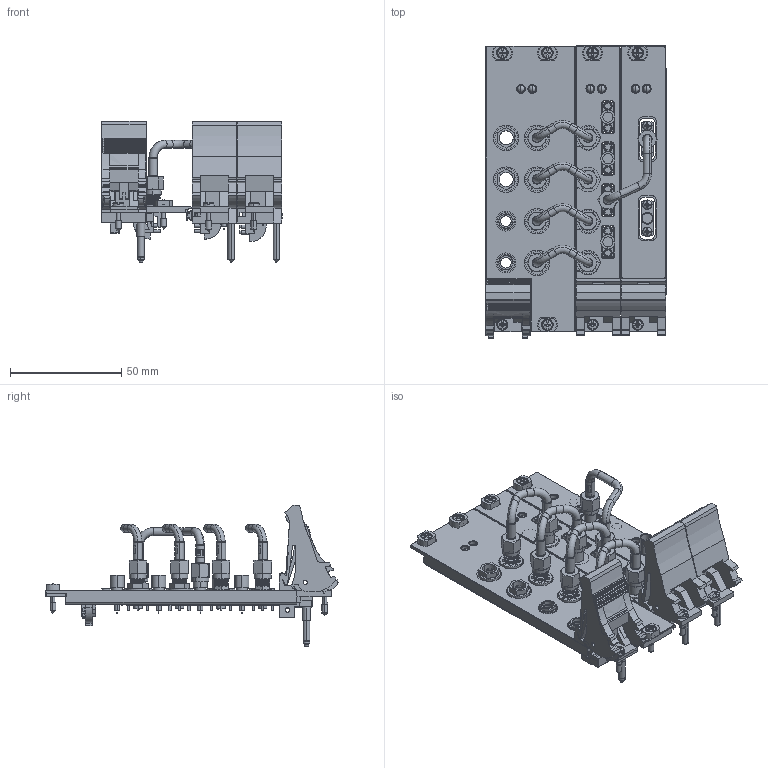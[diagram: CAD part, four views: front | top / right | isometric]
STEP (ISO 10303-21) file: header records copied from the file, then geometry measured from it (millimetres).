
FILE_DESCRIPTION((''),'2;1');
FILE_NAME('CU_PXIE-5673','2009-09-18T',('jjorden'),(''),'PRO/ENGINEER BY PARAMETRIC TECHNOLOGY CORPORATION, 2006080','PRO/ENGINEER BY PARAMETRIC TECHNOLOGY CORPORATION, 2006080','');
FILE_SCHEMA(('CONFIG_CONTROL_DESIGN'));
Length unit declared in the file: inch
Products named in the file (1): CU_PXIE-5673
Bounding box: 81.32 x 131.54 x 63.56 mm (x, y, z)
Volume: 63966.2 mm3; surface area: 72459.8 mm2
Topology: 14 solids, 34 shells, 4820 faces, 12591 edges, 7843 vertices
Faces by surface type: plane 2841, cylinder 1457, cone 204, bspline 198, torus 78, sphere 38, extrusion 4
Entity records: 172578 total; most frequent: CARTESIAN_POINT 55432, ORIENTED_EDGE 24974, DIRECTION 23439, EDGE_CURVE 12487, VERTEX_POINT 7919, AXIS2_PLACEMENT_3D 7873, VECTOR 7693, LINE 7689
